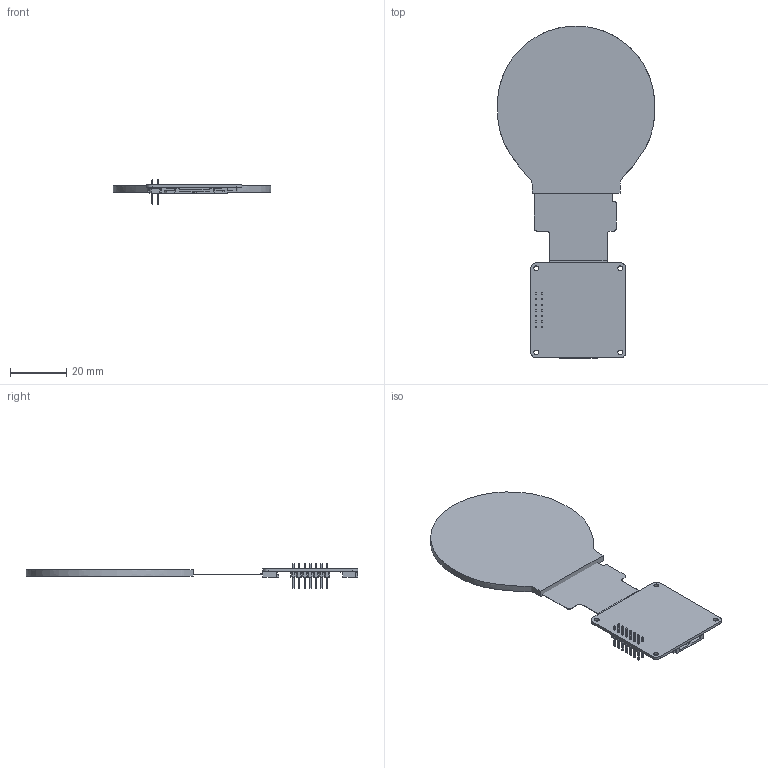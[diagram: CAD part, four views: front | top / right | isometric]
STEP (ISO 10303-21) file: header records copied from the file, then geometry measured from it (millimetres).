
FILE_DESCRIPTION((''),'2;1');
FILE_NAME('TS021WVC02NP-B1323B-V00-241207','2024-12-07T14:52:36',('Shaozi'),(''),'CREO PARAMETRIC BY PTC INC, 2024063','CREO PARAMETRIC BY PTC INC, 2024063','');
FILE_SCHEMA(('AUTOMOTIVE_DESIGN { 1 0 10303 214 1 1 1 1 }'));
Length unit declared in the file: millimetre
Products named in the file (1): TS021WVC02NP-B1323B-V00-241207
Bounding box: 56.12 x 118.51 x 8.8 mm (x, y, z)
Surface area: 10780.6 mm2 (no closed solid volume)
Topology: 0 solids, 6 shells, 336 faces, 960 edges, 644 vertices
Faces by surface type: plane 314, cylinder 18, extrusion 4
Entity records: 13011 total; most frequent: CARTESIAN_POINT 2150, ORIENTED_EDGE 1812, DIRECTION 1662, EDGE_CURVE 960, VECTOR 914, LINE 910, VERTEX_POINT 644, AXIS2_PLACEMENT_3D 374
